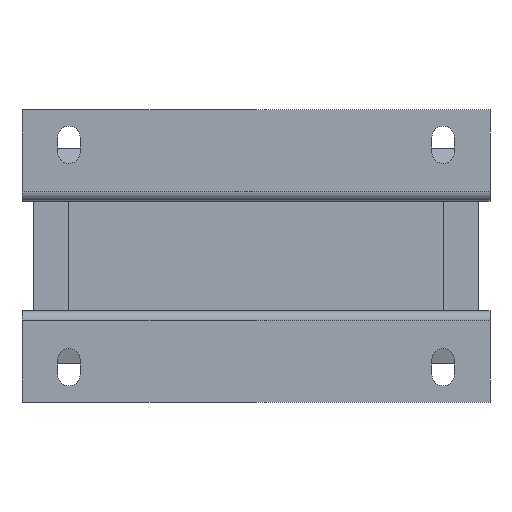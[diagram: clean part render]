
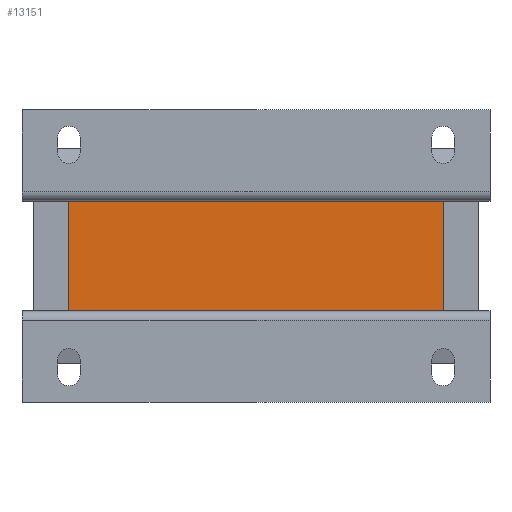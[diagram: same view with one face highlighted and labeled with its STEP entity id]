
A CAD part, front view. The second image highlights one B-rep face of the part: STEP entity #13151.
In plain terms, the highlighted planar face has unit normal (0, -1, 0).
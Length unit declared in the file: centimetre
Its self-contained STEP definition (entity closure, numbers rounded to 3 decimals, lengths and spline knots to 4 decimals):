
#69 = PLANE ( 'NONE',  #3590 ) ;
#1224 = LINE ( 'NONE', #10323, #11432 ) ;
#1802 = ORIENTED_EDGE ( 'NONE', *, *, #11862, .F. ) ;
#2250 = VERTEX_POINT ( 'NONE', #7415 ) ;
#3450 = ORIENTED_EDGE ( 'NONE', *, *, #10587, .F. ) ;
#3493 = DIRECTION ( 'NONE',  ( 1., 0., 0. ) ) ;
#3590 = AXIS2_PLACEMENT_3D ( 'NONE', #9268, #13930, #3493 ) ;
#3742 = LINE ( 'NONE', #8366, #9203 ) ;
#4651 = FACE_OUTER_BOUND ( 'NONE', #6954, .T. ) ;
#5442 = VECTOR ( 'NONE', #7466, 100. ) ;
#5547 = CARTESIAN_POINT ( 'NONE',  ( -4., 0.4, 1.175 ) ) ;
#5789 = DIRECTION ( 'NONE',  ( 0., 0., 1. ) ) ;
#6180 = DIRECTION ( 'NONE',  ( 0., 0., 1. ) ) ;
#6954 = EDGE_LOOP ( 'NONE', ( #3450, #1802, #11856, #7309 ) ) ;
#7159 = CARTESIAN_POINT ( 'NONE',  ( -4., 0.4, -1.175 ) ) ;
#7309 = ORIENTED_EDGE ( 'NONE', *, *, #12838, .T. ) ;
#7415 = CARTESIAN_POINT ( 'NONE',  ( 4., 0.4, -1.175 ) ) ;
#7466 = DIRECTION ( 'NONE',  ( 1., 0., 0. ) ) ;
#8366 = CARTESIAN_POINT ( 'NONE',  ( 4., 0.4, -1.175 ) ) ;
#8707 = VERTEX_POINT ( 'NONE', #9978 ) ;
#8800 = EDGE_CURVE ( 'NONE', #11556, #2250, #13880, .T. ) ;
#9203 = VECTOR ( 'NONE', #6180, 100. ) ;
#9268 = CARTESIAN_POINT ( 'NONE',  ( -4., 0.4, -1.175 ) ) ;
#9819 = CARTESIAN_POINT ( 'NONE',  ( -4., 0.4, 1.175 ) ) ;
#9978 = CARTESIAN_POINT ( 'NONE',  ( 4., 0.4, 1.175 ) ) ;
#10323 = CARTESIAN_POINT ( 'NONE',  ( -4., 0.4, -1.175 ) ) ;
#10587 = EDGE_CURVE ( 'NONE', #10976, #8707, #13260, .T. ) ;
#10976 = VERTEX_POINT ( 'NONE', #5547 ) ;
#11269 = CARTESIAN_POINT ( 'NONE',  ( -4., 0.4, -1.175 ) ) ;
#11432 = VECTOR ( 'NONE', #5789, 100. ) ;
#11556 = VERTEX_POINT ( 'NONE', #7159 ) ;
#11856 = ORIENTED_EDGE ( 'NONE', *, *, #8800, .T. ) ;
#11862 = EDGE_CURVE ( 'NONE', #11556, #10976, #1224, .T. ) ;
#12565 = DIRECTION ( 'NONE',  ( 1., 0., 0. ) ) ;
#12734 = VECTOR ( 'NONE', #12565, 100. ) ;
#12838 = EDGE_CURVE ( 'NONE', #2250, #8707, #3742, .T. ) ;
#13151 = ADVANCED_FACE ( 'NONE', ( #4651 ), #69, .T. ) ;
#13260 = LINE ( 'NONE', #9819, #5442 ) ;
#13880 = LINE ( 'NONE', #11269, #12734 ) ;
#13930 = DIRECTION ( 'NONE',  ( 0., -1., 0. ) ) ;
